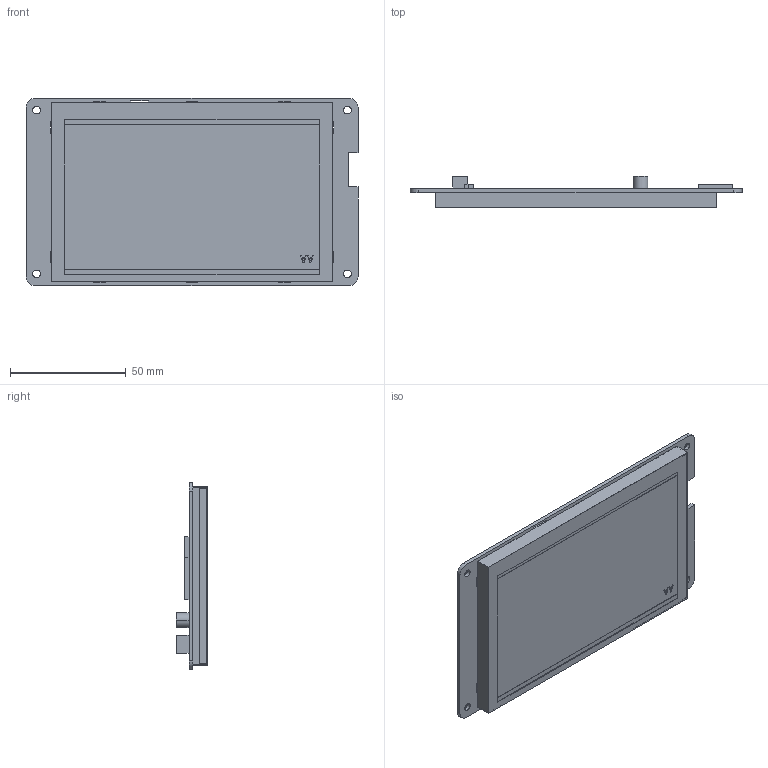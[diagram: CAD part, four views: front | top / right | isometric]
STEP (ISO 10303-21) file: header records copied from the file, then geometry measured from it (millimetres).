
FILE_DESCRIPTION((''),'2;1');
FILE_NAME('3D-DMT48270C050-06WN_ASM','2018-12-03T',('Administrator'),(''),'PRO/ENGINEER BY PARAMETRIC TECHNOLOGY CORPORATION, 2008380','PRO/ENGINEER BY PARAMETRIC TECHNOLOGY CORPORATION, 2008380','');
FILE_SCHEMA(('CONFIG_CONTROL_DESIGN'));
Length unit declared in the file: millimetre
Products named in the file (1): 3D-DMT48270C050-06WN_ASM
Bounding box: 143.51 x 13.7 x 80.9 mm (x, y, z)
Volume: 48310.7 mm3; surface area: 49475.3 mm2
Topology: 1 solids, 1 shells, 157 faces, 480 edges, 304 vertices
Faces by surface type: plane 141, cylinder 16
Entity records: 5607 total; most frequent: ORIENTED_EDGE 960, CARTESIAN_POINT 941, DIRECTION 828, EDGE_CURVE 480, VECTOR 446, LINE 446, VERTEX_POINT 304, AXIS2_PLACEMENT_3D 191
